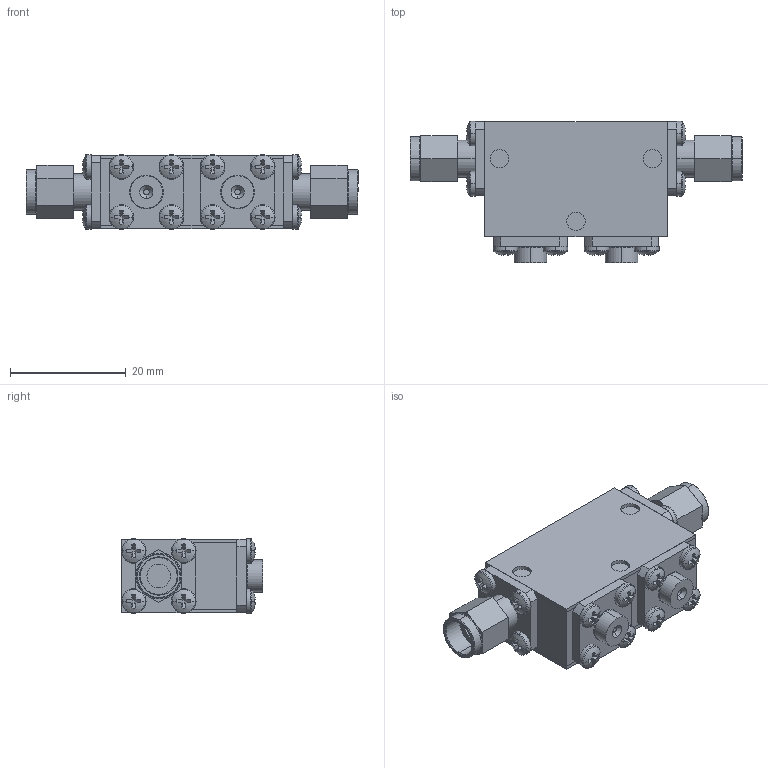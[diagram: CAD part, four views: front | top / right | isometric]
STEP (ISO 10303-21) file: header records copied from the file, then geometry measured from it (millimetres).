
FILE_DESCRIPTION (( 'STEP AP214' ), '1' );
FILE_NAME ('Package 15 Iso MM.step', '2021-12-01T20:58:24', ( '' ), ( '' ), 'SwSTEP 2.0', 'SolidWorks 2016', '' );
FILE_SCHEMA (( 'AUTOMOTIVE_DESIGN' ));
Length unit declared in the file: inch
Products named in the file (6): 030013-1A Same Base thickness as connectors; Package 15; Package 15 Iso MM; Package Size 15; Delta SMA-Male; pan cross head_ai_CR-PHMS 0.086-56x0.125x0.125-N
Assembly tree (22 placements, depth 2):
  Package 15 Iso MM
    Package 15
    pan cross head_ai_CR-PHMS 0.086-56x0.125x0.125-N  x16
    Delta SMA-Male  x2
    Package Size 15
    030013-1A Same Base thickness as connectors  x2
Bounding box: 57.25 x 24.35 x 12.88 mm (x, y, z)
Volume: 9923.6 mm3; surface area: 9469.3 mm2
Topology: 22 solids, 22 shells, 554 faces, 1260 edges, 776 vertices
Faces by surface type: plane 314, cylinder 152, torus 48, sphere 32, cone 8
Entity records: 4324 total; most frequent: DIRECTION 784, CARTESIAN_POINT 673, ORIENTED_EDGE 632, EDGE_CURVE 316, AXIS2_PLACEMENT_3D 313, VERTEX_POINT 202, EDGE_LOOP 168, VECTOR 158
